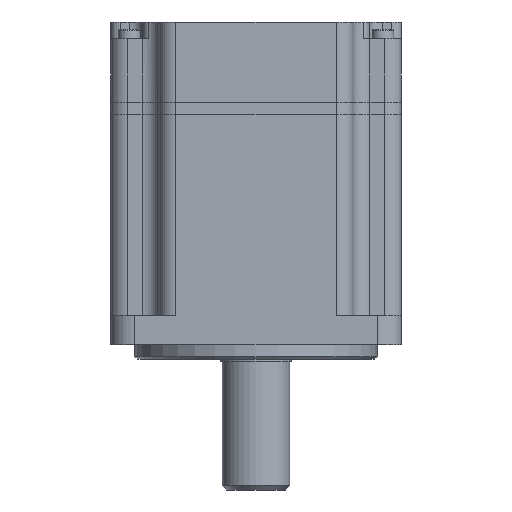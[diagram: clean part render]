
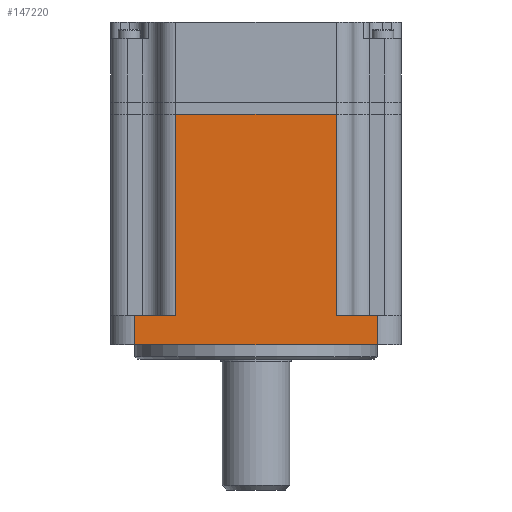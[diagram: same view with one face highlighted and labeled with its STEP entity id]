
A CAD part, front view. The second image highlights one B-rep face of the part: STEP entity #147220.
In plain terms, the highlighted planar face has unit normal (0, -1, 0).
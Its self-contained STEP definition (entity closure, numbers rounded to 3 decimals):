
#1923 = LINE ( 'NONE', #58484, #151923 ) ;
#2879 = VERTEX_POINT ( 'NONE', #46059 ) ;
#5242 = CARTESIAN_POINT ( 'NONE',  ( 25., -56.44, 148.751 ) ) ;
#5525 = EDGE_CURVE ( 'NONE', #148519, #2879, #125480, .T. ) ;
#8209 = LINE ( 'NONE', #107408, #173741 ) ;
#10049 = EDGE_CURVE ( 'NONE', #2879, #34368, #8209, .T. ) ;
#10273 = EDGE_CURVE ( 'NONE', #102019, #34368, #29403, .T. ) ;
#10552 = DIRECTION ( 'NONE',  ( -1., 0., 0. ) ) ;
#11218 = VERTEX_POINT ( 'NONE', #113820 ) ;
#13111 = DIRECTION ( 'NONE',  ( -1., 0., 0. ) ) ;
#17764 = LINE ( 'NONE', #60424, #58880 ) ;
#23428 = CARTESIAN_POINT ( 'NONE',  ( -30., -56.44, 101.251 ) ) ;
#24146 = CARTESIAN_POINT ( 'NONE',  ( -25., -56.44, 101.251 ) ) ;
#29403 = LINE ( 'NONE', #59077, #73057 ) ;
#30150 = VERTEX_POINT ( 'NONE', #148494 ) ;
#33048 = DIRECTION ( 'NONE',  ( 0., 0., 1. ) ) ;
#34368 = VERTEX_POINT ( 'NONE', #99979 ) ;
#34523 = ORIENTED_EDGE ( 'NONE', *, *, #5525, .T. ) ;
#38254 = LINE ( 'NONE', #23428, #120702 ) ;
#40206 = CARTESIAN_POINT ( 'NONE',  ( 25., -56.44, 107.251 ) ) ;
#46059 = CARTESIAN_POINT ( 'NONE',  ( 16.5, -56.44, 107.251 ) ) ;
#51339 = VERTEX_POINT ( 'NONE', #85108 ) ;
#51777 = DIRECTION ( 'NONE',  ( 0., 0., 1. ) ) ;
#52105 = EDGE_CURVE ( 'NONE', #30150, #51339, #1923, .T. ) ;
#55042 = ORIENTED_EDGE ( 'NONE', *, *, #61747, .F. ) ;
#58484 = CARTESIAN_POINT ( 'NONE',  ( -30., -56.44, 107.251 ) ) ;
#58880 = VECTOR ( 'NONE', #116051, 1000. ) ;
#59077 = CARTESIAN_POINT ( 'NONE',  ( -30., -56.44, 148.751 ) ) ;
#60424 = CARTESIAN_POINT ( 'NONE',  ( -16.5, -56.44, 11.619 ) ) ;
#61747 = EDGE_CURVE ( 'NONE', #30150, #102019, #17764, .T. ) ;
#66163 = CARTESIAN_POINT ( 'NONE',  ( -30., -56.44, 148.751 ) ) ;
#72284 = ORIENTED_EDGE ( 'NONE', *, *, #10049, .T. ) ;
#73057 = VECTOR ( 'NONE', #98949, 1000. ) ;
#78238 = FACE_OUTER_BOUND ( 'NONE', #120656, .T. ) ;
#85108 = CARTESIAN_POINT ( 'NONE',  ( -25., -56.44, 107.251 ) ) ;
#85260 = ORIENTED_EDGE ( 'NONE', *, *, #10273, .F. ) ;
#90319 = VERTEX_POINT ( 'NONE', #24146 ) ;
#91261 = PLANE ( 'NONE',  #138849 ) ;
#91506 = ORIENTED_EDGE ( 'NONE', *, *, #52105, .T. ) ;
#95678 = LINE ( 'NONE', #109593, #177613 ) ;
#96586 = DIRECTION ( 'NONE',  ( 0., 0., -1. ) ) ;
#98949 = DIRECTION ( 'NONE',  ( 1., 0., 0. ) ) ;
#99979 = CARTESIAN_POINT ( 'NONE',  ( 16.5, -56.44, 148.751 ) ) ;
#102019 = VERTEX_POINT ( 'NONE', #110099 ) ;
#107408 = CARTESIAN_POINT ( 'NONE',  ( 16.5, -56.44, 11.619 ) ) ;
#107827 = EDGE_CURVE ( 'NONE', #11218, #148519, #133209, .T. ) ;
#109593 = CARTESIAN_POINT ( 'NONE',  ( -25., -56.44, 148.751 ) ) ;
#110099 = CARTESIAN_POINT ( 'NONE',  ( -16.5, -56.44, 148.751 ) ) ;
#112660 = EDGE_CURVE ( 'NONE', #51339, #90319, #95678, .T. ) ;
#113820 = CARTESIAN_POINT ( 'NONE',  ( 25., -56.44, 101.251 ) ) ;
#116051 = DIRECTION ( 'NONE',  ( 0., 0., 1. ) ) ;
#120132 = EDGE_CURVE ( 'NONE', #11218, #90319, #38254, .T. ) ;
#120656 = EDGE_LOOP ( 'NONE', ( #121297, #132562, #34523, #72284, #85260, #55042, #91506, #141031 ) ) ;
#120702 = VECTOR ( 'NONE', #178372, 1000. ) ;
#120906 = DIRECTION ( 'NONE',  ( 0., 1., 0. ) ) ;
#121297 = ORIENTED_EDGE ( 'NONE', *, *, #120132, .F. ) ;
#125480 = LINE ( 'NONE', #164518, #166565 ) ;
#132562 = ORIENTED_EDGE ( 'NONE', *, *, #107827, .T. ) ;
#133209 = LINE ( 'NONE', #5242, #167774 ) ;
#138849 = AXIS2_PLACEMENT_3D ( 'NONE', #66163, #120906, #148778 ) ;
#141031 = ORIENTED_EDGE ( 'NONE', *, *, #112660, .T. ) ;
#147220 = ADVANCED_FACE ( 'NONE', ( #78238 ), #91261, .F. ) ;
#148494 = CARTESIAN_POINT ( 'NONE',  ( -16.5, -56.44, 107.251 ) ) ;
#148519 = VERTEX_POINT ( 'NONE', #40206 ) ;
#148778 = DIRECTION ( 'NONE',  ( 0., 0., 1. ) ) ;
#151923 = VECTOR ( 'NONE', #13111, 1000. ) ;
#164518 = CARTESIAN_POINT ( 'NONE',  ( -30., -56.44, 107.251 ) ) ;
#166565 = VECTOR ( 'NONE', #10552, 1000. ) ;
#167774 = VECTOR ( 'NONE', #33048, 1000. ) ;
#173741 = VECTOR ( 'NONE', #51777, 1000. ) ;
#177613 = VECTOR ( 'NONE', #96586, 1000. ) ;
#178372 = DIRECTION ( 'NONE',  ( -1., 0., 0. ) ) ;
